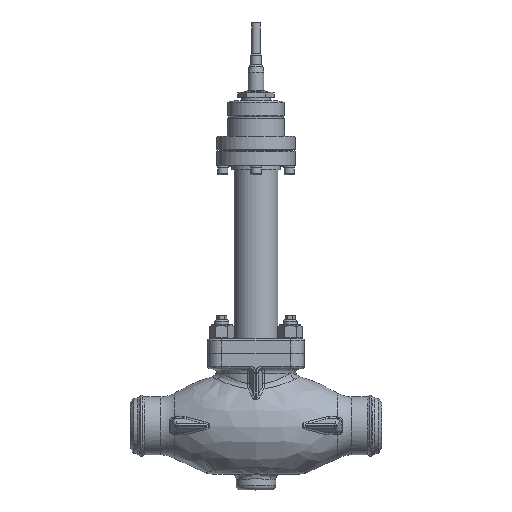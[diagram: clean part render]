
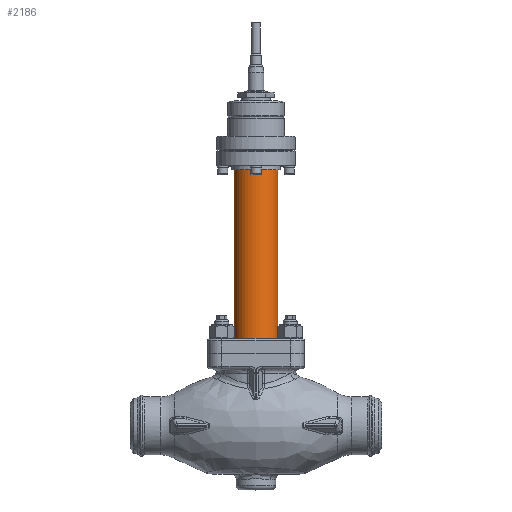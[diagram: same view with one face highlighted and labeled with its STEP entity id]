
A CAD part, top view. The second image highlights one B-rep face of the part: STEP entity #2186.
In plain terms, the highlighted cylindrical face has radius 25 mm (diameter 50 mm), a full revolution.
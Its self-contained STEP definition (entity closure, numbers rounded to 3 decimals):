
#1274=CYLINDRICAL_SURFACE('',#8540,25.);
#2186=ADVANCED_FACE('',(#2772,#2773),#1274,.T.);
#2772=FACE_BOUND('',#3332,.T.);
#2773=FACE_BOUND('',#3333,.T.);
#3332=EDGE_LOOP('',(#4835));
#3333=EDGE_LOOP('',(#4836));
#4835=ORIENTED_EDGE('',*,*,#6999,.F.);
#4836=ORIENTED_EDGE('',*,*,#7001,.T.);
#6117=VERTEX_POINT('',#14757);
#6119=VERTEX_POINT('',#14762);
#6999=EDGE_CURVE('',#6117,#6117,#7776,.T.);
#7001=EDGE_CURVE('',#6119,#6119,#7778,.T.);
#7776=CIRCLE('',#8455,25.);
#7778=CIRCLE('',#8458,25.);
#8455=AXIS2_PLACEMENT_3D('',#14756,#10032,#10033);
#8458=AXIS2_PLACEMENT_3D('',#14761,#10038,#10039);
#8540=AXIS2_PLACEMENT_3D('',#15061,#10222,#10223);
#10032=DIRECTION('',(0.,-1.,0.));
#10033=DIRECTION('',(1.,0.,0.));
#10038=DIRECTION('',(0.,-1.,0.));
#10039=DIRECTION('',(1.,0.,0.));
#10222=DIRECTION('',(0.,1.,0.));
#10223=DIRECTION('',(1.,0.,0.));
#14756=CARTESIAN_POINT('',(0.,98.,0.));
#14757=CARTESIAN_POINT('',(25.,98.,0.));
#14761=CARTESIAN_POINT('',(0.,296.,0.));
#14762=CARTESIAN_POINT('',(25.,296.,0.));
#15061=CARTESIAN_POINT('',(0.,90.,0.));
